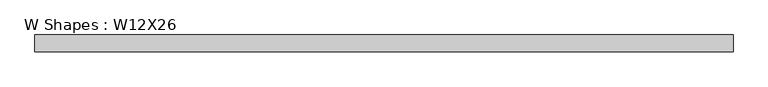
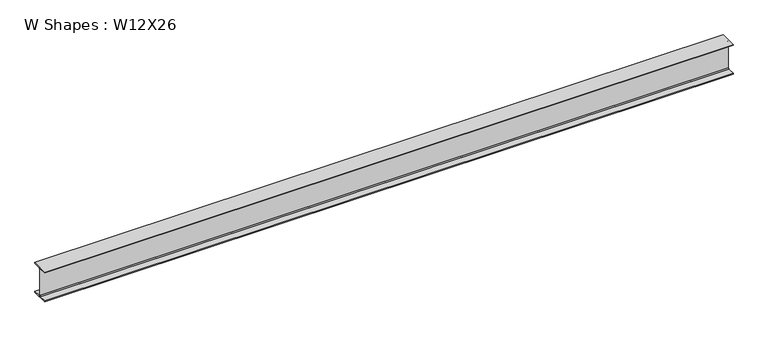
"""IFC4 building model written with IfcOpenShell, lengths in millimetres: beam geometry, W Shapes : W12X26."""

from ifc_helpers import new_model, si_unit, point, frame, frame_2d, origin, place, context, project, spatial, polyline, circle_curve, trimmed, segment, composite_curve, outline, extrude, source, transform, mapped, element, save


def w_shapes_w12x26_8135fd55(model_context):
    return source(origin(), model_context, "Body", "SweptSolid", [
        extrude(outline(composite_curve([segment(polyline([(82.423, -145.288), (82.423, -154.94), (-82.423, -154.94), (-82.423, -145.288), (-10.541, -145.288)]), True, "CONTINUOUS"), segment(trimmed(circle_curve(frame_2d((-10.541, -137.668)), 7.62), [point((-10.541, -145.288))], [point((-2.921, -137.668))], True, "CARTESIAN"), True, "CONTINUOUS"), segment(polyline([(-2.921, -137.668), (-2.921, 137.668)]), True, "CONTINUOUS"), segment(trimmed(circle_curve(frame_2d((-10.541, 137.668)), 7.62), [point((-2.921, 137.668))], [point((-10.541, 145.288))], True, "CARTESIAN"), True, "CONTINUOUS"), segment(polyline([(-10.541, 145.288), (-82.423, 145.288), (-82.423, 154.94), (82.423, 154.94), (82.423, 145.288), (10.541, 145.288)]), True, "CONTINUOUS"), segment(trimmed(circle_curve(frame_2d((10.541, 137.668)), 7.62), [point((10.541, 145.288))], [point((2.921, 137.668))], True, "CARTESIAN"), True, "CONTINUOUS"), segment(polyline([(2.921, 137.668), (2.921, -137.668)]), True, "CONTINUOUS"), segment(trimmed(circle_curve(frame_2d((10.541, -137.668)), 7.62), [point((2.921, -137.668))], [point((10.541, -145.288))], True, "CARTESIAN"), True, "CONTINUOUS"), segment(polyline([(10.541, -145.288), (82.423, -145.288)]), True, "CONTINUOUS")], self_intersect=False)), frame((-3391.408, 0.0, 0.0), z_axis=(1.0, 0.0, 0.0), x_axis=(0.0, 1.0, 0.0)), (0.0, 0.0, 1.0), 6782.816),
    ])


if __name__ == "__main__":
    model = new_model("IFC4")
    model_context = context("Model", 3, world=origin())
    ifc_project = project(units=[si_unit("LENGTHUNIT", "METRE", prefix="MILLI")], contexts=[model_context])
    site = spatial("IfcSite", under=ifc_project)
    building = spatial("IfcBuilding", under=site)
    placement = place(None, origin())
    w_shapes_w12x26_shape = w_shapes_w12x26_8135fd55(model_context)
    element("IfcBeam", 1, ObjectType="W Shapes : W12X26", at=placement, inside=building, context=model_context, shape_type="MappedRepresentation", body=[
        mapped(w_shapes_w12x26_shape, transform((0.0, 0.0, 0.0), x_axis=(1.0, 0.0, 0.0), y_axis=(0.0, 1.0, 0.0), z_axis=(0.0, 0.0, 1.0))),
    ])
    save(model, "model.ifc")
